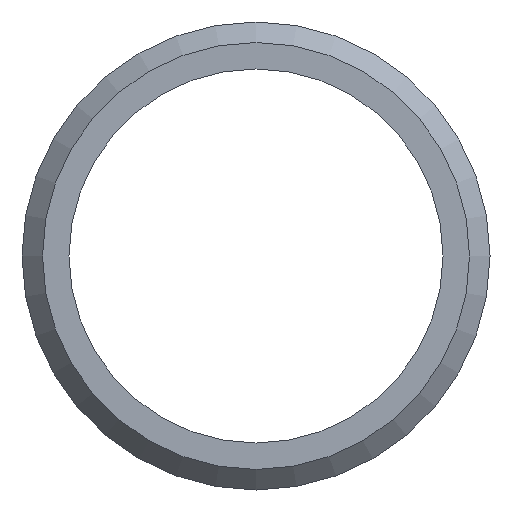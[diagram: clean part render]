
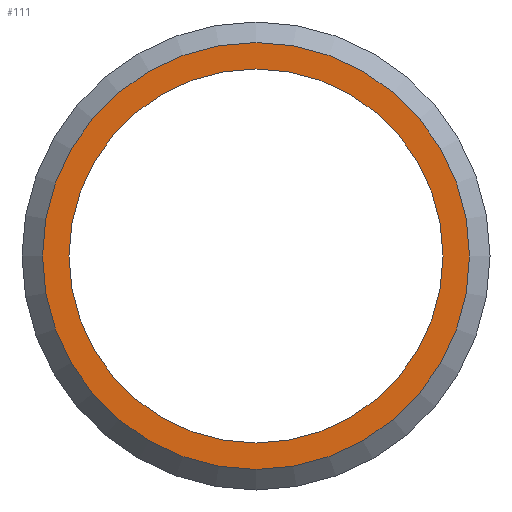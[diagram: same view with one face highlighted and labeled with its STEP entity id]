
A CAD part, front view. The second image highlights one B-rep face of the part: STEP entity #111.
In plain terms, the highlighted planar face has unit normal (0, -1, 0).
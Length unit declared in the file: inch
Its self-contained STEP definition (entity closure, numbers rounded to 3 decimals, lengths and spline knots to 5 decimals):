
#16=FACE_BOUND('',#33,.T.);
#18=PLANE('',#139);
#25=FACE_OUTER_BOUND('',#32,.T.);
#32=EDGE_LOOP('',(#96));
#33=EDGE_LOOP('',(#97,#98));
#50=CIRCLE('',#138,0.2825);
#51=CIRCLE('',#140,0.2475);
#52=CIRCLE('',#141,0.2475);
#60=VERTEX_POINT('',#202);
#61=VERTEX_POINT('',#206);
#62=VERTEX_POINT('',#207);
#72=EDGE_CURVE('',#60,#60,#50,.T.);
#74=EDGE_CURVE('',#61,#62,#51,.T.);
#75=EDGE_CURVE('',#62,#61,#52,.T.);
#96=ORIENTED_EDGE('',*,*,#72,.F.);
#97=ORIENTED_EDGE('',*,*,#74,.F.);
#98=ORIENTED_EDGE('',*,*,#75,.F.);
#111=ADVANCED_FACE('',(#25,#16),#18,.T.);
#138=AXIS2_PLACEMENT_3D('',#203,#169,#170);
#139=AXIS2_PLACEMENT_3D('',#205,#172,#173);
#140=AXIS2_PLACEMENT_3D('',#208,#174,#175);
#141=AXIS2_PLACEMENT_3D('',#209,#176,#177);
#169=DIRECTION('center_axis',(0.,1.,0.));
#170=DIRECTION('ref_axis',(0.,0.,1.));
#172=DIRECTION('center_axis',(0.,-1.,0.));
#173=DIRECTION('ref_axis',(0.,0.,-1.));
#174=DIRECTION('center_axis',(0.,-1.,0.));
#175=DIRECTION('ref_axis',(1.,0.,0.));
#176=DIRECTION('center_axis',(0.,-1.,0.));
#177=DIRECTION('ref_axis',(1.,0.,0.));
#202=CARTESIAN_POINT('',(0.,0.,-0.2825));
#203=CARTESIAN_POINT('Origin',(0.,0.,0.));
#205=CARTESIAN_POINT('Origin',(0.,0.,-0.2475));
#206=CARTESIAN_POINT('',(0.,0.,-0.2475));
#207=CARTESIAN_POINT('',(0.,0.,0.2475));
#208=CARTESIAN_POINT('Origin',(0.,0.,0.));
#209=CARTESIAN_POINT('Origin',(0.,0.,0.));
